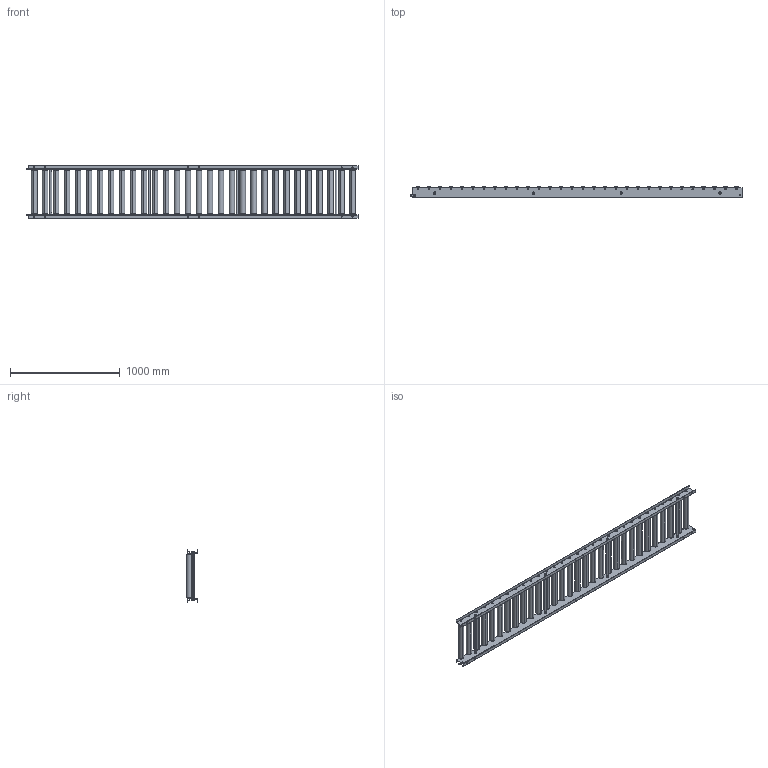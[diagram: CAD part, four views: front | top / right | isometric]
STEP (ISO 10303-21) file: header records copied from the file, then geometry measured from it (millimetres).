
FILE_DESCRIPTION (( 'STEP AP203' ), '1' );
FILE_NAME ('RS-5015.step', '2024-02-26T06:39:41', ( '' ), ( '' ), 'SwSTEP 2.0', 'SolidWorks 2023', '' );
FILE_SCHEMA (( 'CONFIG_CONTROL_DESIGN' ));
Length unit declared in the file: millimetre
Products named in the file (1): RS-5015
Bounding box: 3025 x 100.32 x 475 mm (x, y, z)
Volume: 25436803.4 mm3; surface area: 5328008.7 mm2
Topology: 84 solids, 84 shells, 1280 faces, 2932 edges, 1888 vertices
Faces by surface type: cylinder 622, plane 490, torus 120, cone 48
Entity records: 37571 total; most frequent: DIRECTION 7018, CARTESIAN_POINT 6773, ORIENTED_EDGE 5864, AXIS2_PLACEMENT_3D 2933, EDGE_CURVE 2932, VERTEX_POINT 1888, CIRCLE 1652, EDGE_LOOP 1652
